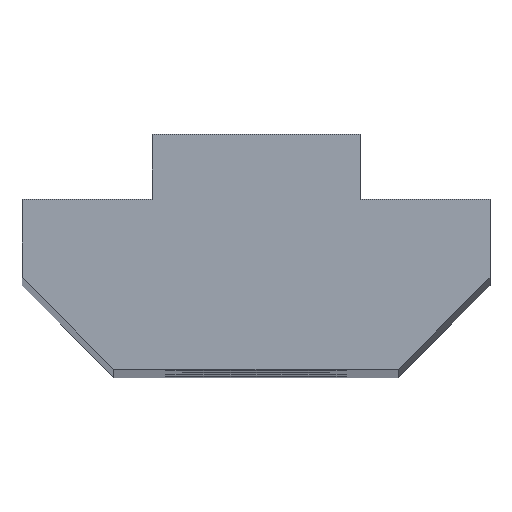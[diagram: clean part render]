
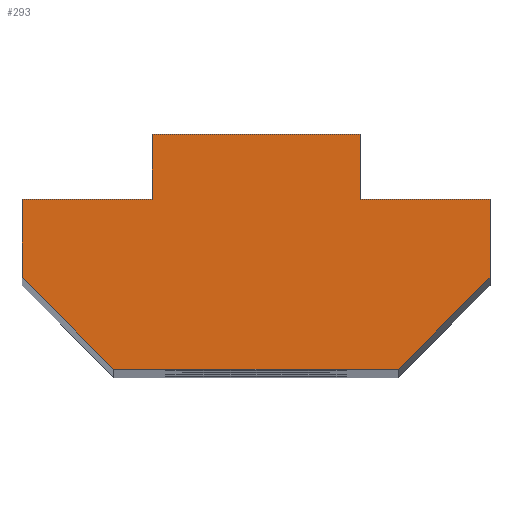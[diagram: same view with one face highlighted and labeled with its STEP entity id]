
A CAD part, top view. The second image highlights one B-rep face of the part: STEP entity #293.
In plain terms, the highlighted planar face has unit normal (0, 0, 1).
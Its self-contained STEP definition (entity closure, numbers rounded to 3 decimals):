
#6 = ORIENTED_EDGE ( 'NONE', *, *, #370, .T. ) ;
#23 = DIRECTION ( 'NONE',  ( 0., -1., 0. ) ) ;
#29 = ORIENTED_EDGE ( 'NONE', *, *, #1065, .T. ) ;
#67 = CARTESIAN_POINT ( 'NONE',  ( -15.258, -6.536, 180. ) ) ;
#124 = ORIENTED_EDGE ( 'NONE', *, *, #886, .T. ) ;
#132 = CARTESIAN_POINT ( 'NONE',  ( -11.723, 0., 180. ) ) ;
#139 = DIRECTION ( 'NONE',  ( 0.707, -0.707, 0. ) ) ;
#142 = CARTESIAN_POINT ( 'NONE',  ( -24.723, 2.5, 180. ) ) ;
#144 = LINE ( 'NONE', #142, #579 ) ;
#170 = VECTOR ( 'NONE', #572, 1000. ) ;
#208 = PLANE ( 'NONE',  #882 ) ;
#210 = ORIENTED_EDGE ( 'NONE', *, *, #684, .T. ) ;
#223 = LINE ( 'NONE', #242, #430 ) ;
#230 = VERTEX_POINT ( 'NONE', #263 ) ;
#242 = CARTESIAN_POINT ( 'NONE',  ( -29.723, 0., 180. ) ) ;
#248 = FACE_OUTER_BOUND ( 'NONE', #728, .T. ) ;
#254 = CARTESIAN_POINT ( 'NONE',  ( -26.187, -6.536, 180. ) ) ;
#262 = ORIENTED_EDGE ( 'NONE', *, *, #314, .T. ) ;
#263 = CARTESIAN_POINT ( 'NONE',  ( -16.723, 0., 180. ) ) ;
#293 = ADVANCED_FACE ( 'NONE', ( #248 ), #208, .F. ) ;
#314 = EDGE_CURVE ( 'NONE', #485, #880, #478, .T. ) ;
#326 = LINE ( 'NONE', #853, #499 ) ;
#336 = CARTESIAN_POINT ( 'NONE',  ( -26.187, -6.536, 180. ) ) ;
#356 = VERTEX_POINT ( 'NONE', #132 ) ;
#364 = EDGE_CURVE ( 'NONE', #356, #230, #634, .T. ) ;
#370 = EDGE_CURVE ( 'NONE', #1011, #1073, #837, .T. ) ;
#375 = VECTOR ( 'NONE', #139, 1000. ) ;
#398 = EDGE_CURVE ( 'NONE', #766, #718, #144, .T. ) ;
#421 = VECTOR ( 'NONE', #829, 1000. ) ;
#425 = DIRECTION ( 'NONE',  ( 1., 0., 0. ) ) ;
#428 = CARTESIAN_POINT ( 'NONE',  ( -16.723, 2.5, 180. ) ) ;
#430 = VECTOR ( 'NONE', #1122, 1000. ) ;
#469 = LINE ( 'NONE', #956, #934 ) ;
#478 = LINE ( 'NONE', #742, #421 ) ;
#479 = CARTESIAN_POINT ( 'NONE',  ( -29.723, -3., 180. ) ) ;
#485 = VERTEX_POINT ( 'NONE', #67 ) ;
#499 = VECTOR ( 'NONE', #685, 1000. ) ;
#516 = CARTESIAN_POINT ( 'NONE',  ( -24.723, 0., 180. ) ) ;
#540 = CARTESIAN_POINT ( 'NONE',  ( -24.723, 0., 180. ) ) ;
#572 = DIRECTION ( 'NONE',  ( -1., 0., 0. ) ) ;
#576 = DIRECTION ( 'NONE',  ( -1., 0., 0. ) ) ;
#579 = VECTOR ( 'NONE', #576, 1000. ) ;
#606 = DIRECTION ( 'NONE',  ( 0., 1., 0. ) ) ;
#610 = LINE ( 'NONE', #254, #665 ) ;
#624 = CARTESIAN_POINT ( 'NONE',  ( -11.723, -3., 180. ) ) ;
#627 = VECTOR ( 'NONE', #23, 1000. ) ;
#634 = LINE ( 'NONE', #1010, #170 ) ;
#635 = CARTESIAN_POINT ( 'NONE',  ( -29.723, 0., 180. ) ) ;
#665 = VECTOR ( 'NONE', #425, 1000. ) ;
#684 = EDGE_CURVE ( 'NONE', #880, #356, #326, .T. ) ;
#685 = DIRECTION ( 'NONE',  ( 0., 1., 0. ) ) ;
#699 = ORIENTED_EDGE ( 'NONE', *, *, #1091, .T. ) ;
#714 = ORIENTED_EDGE ( 'NONE', *, *, #769, .T. ) ;
#718 = VERTEX_POINT ( 'NONE', #1127 ) ;
#725 = DIRECTION ( 'NONE',  ( -1., 0., 0. ) ) ;
#728 = EDGE_LOOP ( 'NONE', ( #124, #811, #29, #6, #699, #262, #210, #1005, #714, #821 ) ) ;
#742 = CARTESIAN_POINT ( 'NONE',  ( -11.723, -3., 180. ) ) ;
#751 = DIRECTION ( 'NONE',  ( -1., 0., 0. ) ) ;
#766 = VERTEX_POINT ( 'NONE', #428 ) ;
#767 = VERTEX_POINT ( 'NONE', #516 ) ;
#769 = EDGE_CURVE ( 'NONE', #230, #766, #469, .T. ) ;
#778 = LINE ( 'NONE', #635, #981 ) ;
#811 = ORIENTED_EDGE ( 'NONE', *, *, #969, .T. ) ;
#816 = CARTESIAN_POINT ( 'NONE',  ( 0., 0., 180. ) ) ;
#821 = ORIENTED_EDGE ( 'NONE', *, *, #398, .T. ) ;
#829 = DIRECTION ( 'NONE',  ( 0.707, 0.707, 0. ) ) ;
#833 = LINE ( 'NONE', #540, #627 ) ;
#836 = VERTEX_POINT ( 'NONE', #1061 ) ;
#837 = LINE ( 'NONE', #479, #375 ) ;
#853 = CARTESIAN_POINT ( 'NONE',  ( -11.723, 0., 180. ) ) ;
#879 = DIRECTION ( 'NONE',  ( 0., 0., -1. ) ) ;
#880 = VERTEX_POINT ( 'NONE', #624 ) ;
#882 = AXIS2_PLACEMENT_3D ( 'NONE', #816, #879, #751 ) ;
#886 = EDGE_CURVE ( 'NONE', #718, #767, #833, .T. ) ;
#934 = VECTOR ( 'NONE', #606, 1000. ) ;
#956 = CARTESIAN_POINT ( 'NONE',  ( -16.723, 2.5, 180. ) ) ;
#969 = EDGE_CURVE ( 'NONE', #767, #836, #778, .T. ) ;
#981 = VECTOR ( 'NONE', #725, 1000. ) ;
#1005 = ORIENTED_EDGE ( 'NONE', *, *, #364, .T. ) ;
#1010 = CARTESIAN_POINT ( 'NONE',  ( -16.723, 0., 180. ) ) ;
#1011 = VERTEX_POINT ( 'NONE', #1099 ) ;
#1061 = CARTESIAN_POINT ( 'NONE',  ( -29.723, 0., 180. ) ) ;
#1065 = EDGE_CURVE ( 'NONE', #836, #1011, #223, .T. ) ;
#1073 = VERTEX_POINT ( 'NONE', #336 ) ;
#1091 = EDGE_CURVE ( 'NONE', #1073, #485, #610, .T. ) ;
#1099 = CARTESIAN_POINT ( 'NONE',  ( -29.723, -3., 180. ) ) ;
#1122 = DIRECTION ( 'NONE',  ( 0., -1., 0. ) ) ;
#1127 = CARTESIAN_POINT ( 'NONE',  ( -24.723, 2.5, 180. ) ) ;
